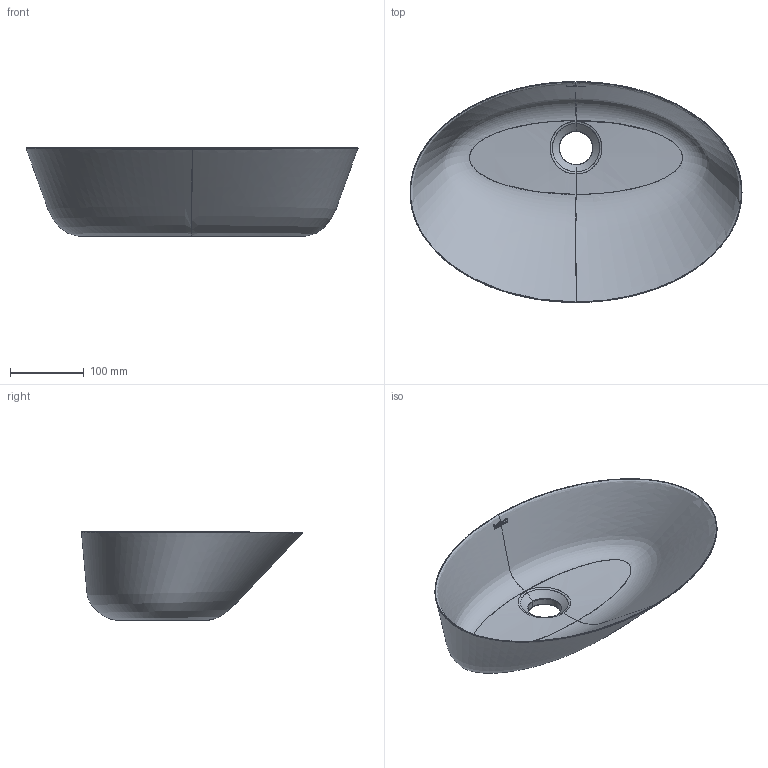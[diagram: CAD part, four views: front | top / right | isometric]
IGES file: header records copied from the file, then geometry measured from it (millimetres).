
Global section: file name: C:\Users\User\Desktop\6017 Trieste 3D.igs; native system: Rhinoceros ( Jan 23 2018 ); preprocessor: Trout Lake IGES 012 Jan 23 2018; date: 210105.161654; units: millimetre
Bounding box: 449.45 x 299.16 x 119.93 mm (x, y, z)
Surface area: 337708.5 mm2 (no closed solid volume)
Topology: 0 solids, 0 shells, 84 faces, 949 edges, 946 vertices
Faces by surface type: bspline 84
